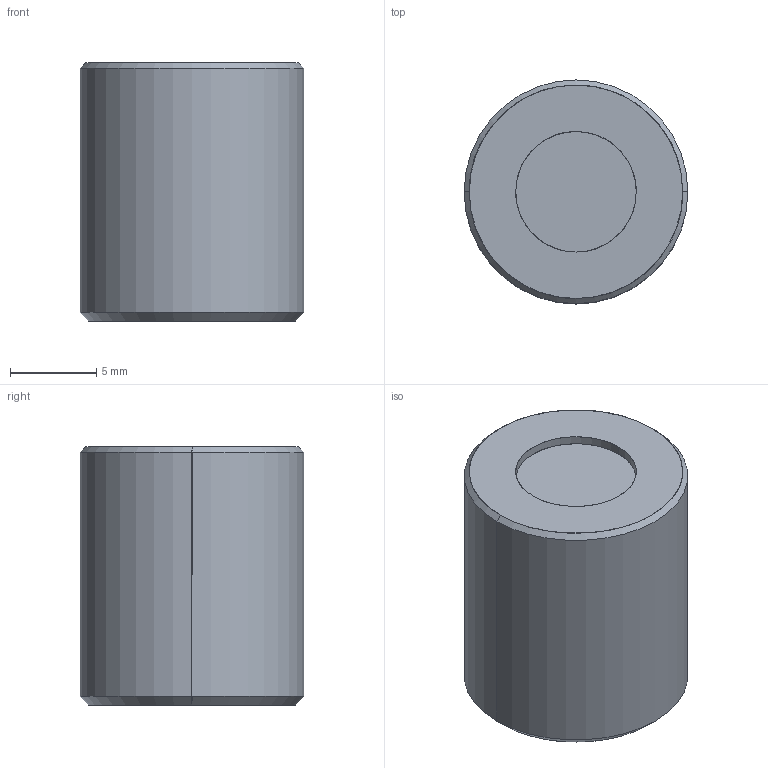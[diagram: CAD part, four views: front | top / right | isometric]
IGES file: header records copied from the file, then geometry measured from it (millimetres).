
Global section: file name: E:\UnigraphicsGraphicData\MISUMI_PRESS-PARTS\IGES\3d_mgn13_00561_r00.igs; native system: NX V5.0; preprocessor: UGS NX IGES V5.0; author: MISUMI; date: 20110105.161419; units: millimetre
Bounding box: 13 x 13 x 15 mm (x, y, z)
Surface area: 1181.7 mm2 (no closed solid volume)
Topology: 0 solids, 0 shells, 22 faces, 144 edges, 144 vertices
Faces by surface type: bspline 22
